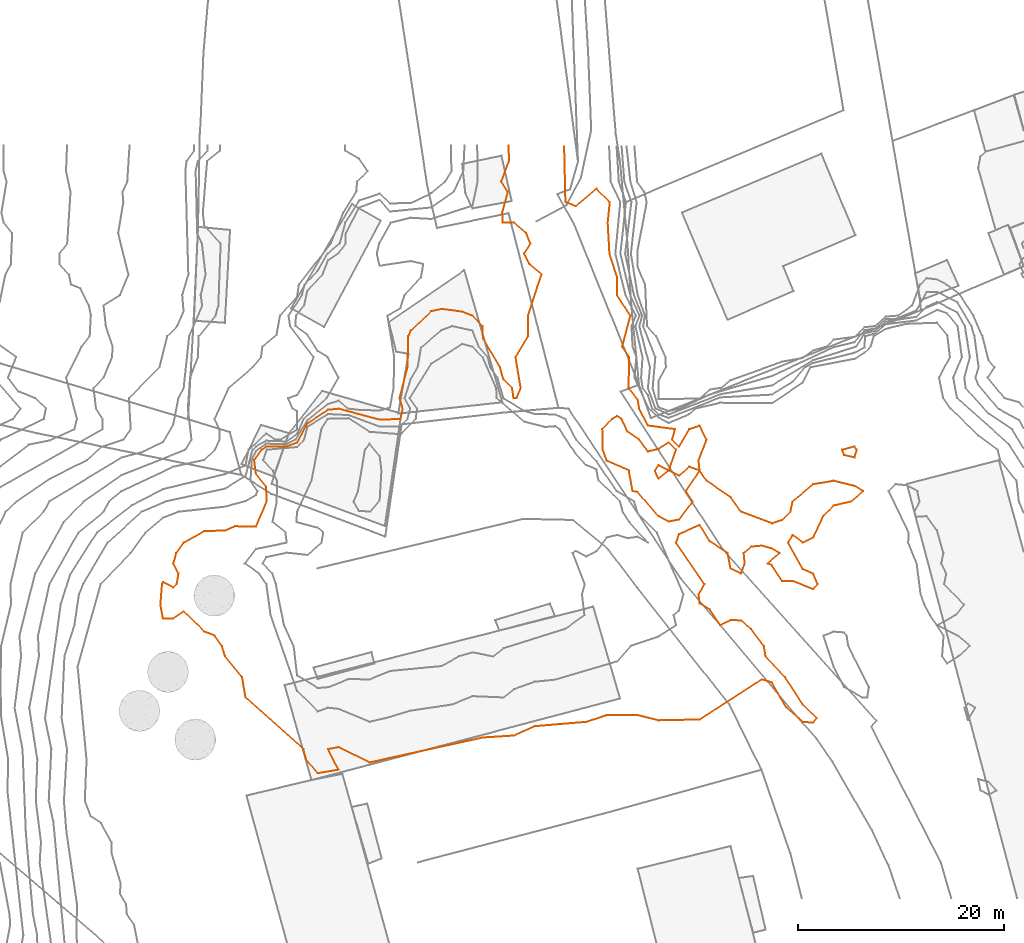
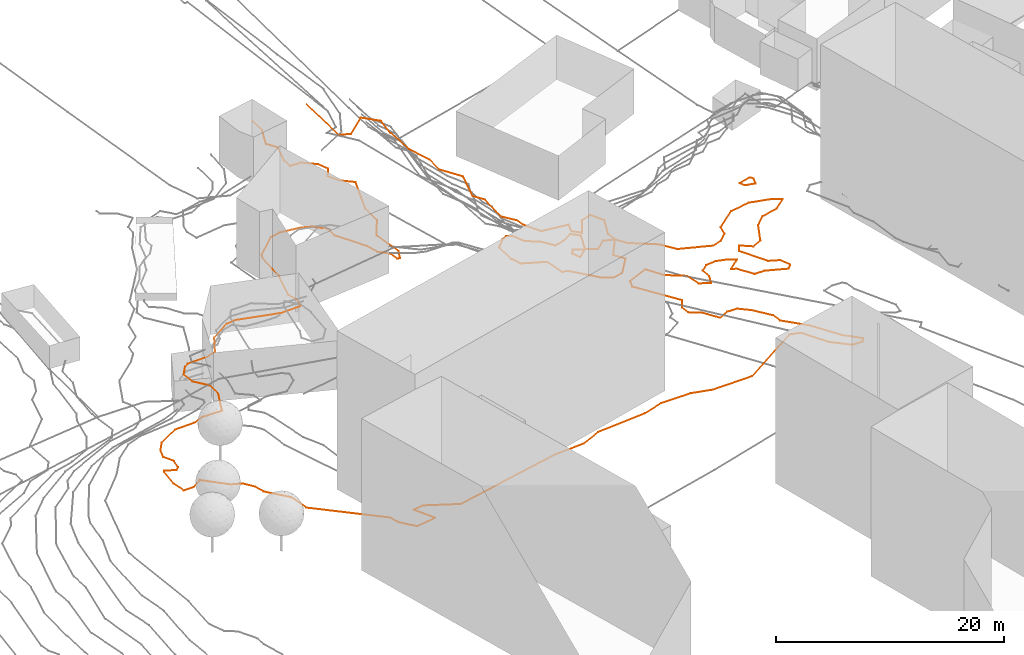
# Not in any storey, part 385 of 419: 3 proxies.
"""IFC2X3 model written with IfcOpenShell, lengths in metres."""

import ifcopenshell
import ifcopenshell.guid

model = None  # the IFC model being written
_history = None  # IfcOwnerHistory: only IFC2X3 demands one
_inside = {}  # id of a spatial element -> (the spatial element, [elements in it])
_under = {}  # id of a project, library or spatial element -> (it, [spatial elements below it])
_declared = {}  # id of a project -> (the project, [libraries it declares])
_typed = {}  # id of a type object -> (the type object, [elements of that type])
_made_of = {}  # id of a material, layer set ... -> (it, [elements and type objects made of it])


def new_model(schema):
    """Start an empty IFC model of exactly this schema.

    Asked for "IFC4X3", IfcOpenShell would pick the latest addendum, in which some entities
    have other attributes; the version numbers below select the first issue.
    IFC2X3 requires an IfcOwnerHistory on every rooted entity: one is made here for all.
    """
    global model, _history
    if schema == "IFC4X3":
        model = ifcopenshell.file(schema_version=(4, 3, 0, 0))
    else:
        model = ifcopenshell.file(schema=schema)
    _inside.clear()
    _under.clear()
    _declared.clear()
    _typed.clear()
    _made_of.clear()
    _history = None
    if model.schema == "IFC2X3":
        org = make("IfcOrganization", Name="unknown")
        user = make(
            "IfcPersonAndOrganization",
            ThePerson=make("IfcPerson", FamilyName="unknown"),
            TheOrganization=org,
        )
        app = make(
            "IfcApplication",
            ApplicationDeveloper=org,
            Version="unknown",
            ApplicationFullName="unknown",
            ApplicationIdentifier="unknown",
        )
        _history = make(
            "IfcOwnerHistory",
            OwningUser=user,
            OwningApplication=app,
            ChangeAction="ADDED",
            CreationDate=0,
        )
    return model


def make(cls, **values):
    """One entity of the class cls with the attributes given. An attribute that is None is left unset."""
    return model.create_entity(
        cls, **{name: value for name, value in values.items() if value is not None}
    )


def entity(cls, *values):
    """Any entity or typed value of the class cls, its attributes in the order of the schema. None: left unset."""
    e = model.create_entity(cls)
    for i, value in enumerate(values):
        if value is not None:
            e[i] = value
    return e


def rooted(cls, **values):
    """An entity with a GlobalId (a new one), such as an element, a storey or a relation."""
    return make(cls, GlobalId=ifcopenshell.guid.new(), OwnerHistory=_history, **values)


def si_unit(unit_type, name, prefix=None):
    """IfcSIUnit, for example si_unit("LENGTHUNIT", "METRE", prefix="MILLI")."""
    return make("IfcSIUnit", UnitType=unit_type, Prefix=prefix, Name=name)


def assignment(units):
    """IfcUnitAssignment: the units of a project."""
    return None if units is None else make("IfcUnitAssignment", Units=units)


def point(xyz):
    """IfcCartesianPoint."""
    return None if xyz is None else make("IfcCartesianPoint", Coordinates=xyz)


def direction(xyz):
    """IfcDirection."""
    return None if xyz is None else make("IfcDirection", DirectionRatios=xyz)


def frame(location, z_axis=None, x_axis=None):
    """IfcAxis2Placement3D, a coordinate frame: its origin and axes. An axis left out is left unset."""
    return make(
        "IfcAxis2Placement3D",
        Location=point(location),
        Axis=direction(z_axis),
        RefDirection=direction(x_axis),
    )


def origin_with_axes():
    """The frame at (0, 0, 0) with the z axis (0, 0, 1) and the x axis (1, 0, 0) written out."""
    return frame((0.0, 0.0, 0.0), z_axis=(0.0, 0.0, 1.0), x_axis=(1.0, 0.0, 0.0))


def place(relative_to, where):
    """IfcLocalPlacement: puts the frame where relative to a parent placement (None: the world)."""
    return make(
        "IfcLocalPlacement", PlacementRelTo=relative_to, RelativePlacement=where
    )


def context(
    kind, dimensions, precision=None, world=None, true_north=None, identifier=None
):
    """IfcGeometricRepresentationContext, for example the 3D "Model" context."""
    return make(
        "IfcGeometricRepresentationContext",
        ContextIdentifier=identifier,
        ContextType=kind,
        CoordinateSpaceDimension=dimensions,
        Precision=precision,
        WorldCoordinateSystem=world,
        TrueNorth=true_north,
    )


def subcontext(parent, identifier, kind, view, scale=None):
    """IfcGeometricRepresentationSubContext, for example "Body" below "Model"."""
    return make(
        "IfcGeometricRepresentationSubContext",
        ContextIdentifier=identifier,
        ContextType=kind,
        ParentContext=parent,
        TargetScale=scale,
        TargetView=view,
    )


def project(units=None, contexts=None):
    """IfcProject with its units and contexts."""
    return rooted(
        "IfcProject",
        Name="project",
        RepresentationContexts=contexts,
        UnitsInContext=assignment(units),
    )


def shape(context_of_items, identifier, shape_type, items):
    """IfcShapeRepresentation: the items that make up one representation, for example the "Body"."""
    return make(
        "IfcShapeRepresentation",
        ContextOfItems=context_of_items,
        RepresentationIdentifier=identifier,
        RepresentationType=shape_type,
        Items=items,
    )


def made_of(thing, what):
    """Note that an element or type object is made of a material, layer set ...; save() writes the relation."""
    if what is not None:
        _made_of.setdefault(what.id(), (what, []))[1].append(thing)
    return thing


def element(
    cls,
    number,
    at=None,
    inside=None,
    cuts=None,
    type_object=None,
    material=None,
    context=None,
    identifier="Body",
    shape_type=None,
    held_by="IfcProductDefinitionShape",
    body=None,
    shapes=None,
    **own,
):
    """One element of the class cls, such as IfcWall. Its Tag is "e" and its number.

    at: its placement. inside: the storey or other place that contains it. cuts: it is an
    opening in that element (IfcRelVoidsElement). A single representation is given by context,
    identifier, shape_type and body (its items); several are given by shapes. held_by: the class
    of the entity that holds the representations. save() writes the other relations.
    """
    e = rooted(cls, Tag="e%d" % number, ObjectPlacement=at, **own)
    if body is not None:
        shapes = [shape(context, identifier, shape_type, body)]
    if shapes is not None:
        e.Representation = make(held_by, Representations=shapes)
    if inside is not None:
        _inside.setdefault(inside.id(), (inside, []))[1].append(e)
    if cuts is not None:
        rooted(
            "IfcRelVoidsElement", RelatingBuildingElement=cuts, RelatedOpeningElement=e
        )
    if type_object is not None:
        _typed.setdefault(type_object.id(), (type_object, []))[1].append(e)
    return made_of(e, material)


def aggregate(whole, parts):
    """IfcRelAggregates: a whole, such as a stair, and the parts it consists of."""
    return rooted("IfcRelAggregates", RelatingObject=whole, RelatedObjects=parts)


def save(model, path):
    """Write the relations noted so far, then the file.

    IfcRelAggregates (storeys below a building ...), IfcRelContainedInSpatialStructure (elements
    in a storey), IfcRelDefinesByType, IfcRelAssociatesMaterial and IfcRelDeclares: one each for
    every whole, place, type object, material and project.
    """
    for whole, parts in _under.values():
        aggregate(whole, parts)
    for where, things in _inside.values():
        rooted(
            "IfcRelContainedInSpatialStructure",
            RelatedElements=things,
            RelatingStructure=where,
        )
    for kind, things in _typed.values():
        rooted("IfcRelDefinesByType", RelatedObjects=things, RelatingType=kind)
    for what, things in _made_of.values():
        rooted("IfcRelAssociatesMaterial", RelatedObjects=things, RelatingMaterial=what)
    for by, libraries in _declared.values():
        rooted("IfcRelDeclares", RelatingContext=by, RelatedDefinitions=libraries)
    model.write(path)


model = new_model("IFC2X3")

# Units and contexts
model_context = context("Model", 3, precision=1e-05, world=origin_with_axes())
body_context = subcontext(model_context, "Body", "Model", "MODEL_VIEW")
ifc_project = project(units=[si_unit("AREAUNIT", "SQUARE_METRE"), si_unit("LENGTHUNIT", "METRE")], contexts=[model_context])

# Proxies
proxy_1_placement = place(None, frame((875.8919899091, 1002.8976909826, 99.0), z_axis=(0.0, 0.0, 1.0), x_axis=(1.0, 0.0, 0.0)))
element("IfcBuildingElementProxy", 1, at=proxy_1_placement, Name="Contour 99.0 m", ObjectType="NOTDEFINED", context=body_context, shape_type="GeometricCurveSet", body=[
    entity("IfcGeometricCurveSet", [entity("IfcPolyline", [entity("IfcCartesianPoint", [1.430795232, 0.0, 0.0]), entity("IfcCartesianPoint", [1.2000305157, -0.7499523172, 0.0]), entity("IfcCartesianPoint", [0.2000305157, -0.5000499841, 0.0]), entity("IfcCartesianPoint", [0.0, 0.0, 0.0]), entity("IfcCartesianPoint", [1.2000305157, 0.333333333, 0.0]), entity("IfcCartesianPoint", [1.430795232, 0.0, 0.0])])]),
])
proxy_2_placement = place(None, frame((852.6634645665, 1004.8976909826, 99.0), z_axis=(0.0, 0.0, 1.0), x_axis=(1.0, 0.0, 0.0)))
element("IfcBuildingElementProxy", 2, at=proxy_2_placement, Name="Contour 99.0 m", ObjectType="NOTDEFINED", context=body_context, shape_type="GeometricCurveSet", body=[
    entity("IfcGeometricCurveSet", [entity("IfcPolyline", [entity("IfcCartesianPoint", [7.4285558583, -8.75, 0.0]), entity("IfcCartesianPoint", [8.7618468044, -7.0, 0.0]), entity("IfcCartesianPoint", [8.0952649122, -6.0, 0.0]), entity("IfcCartesianPoint", [9.4285358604, -4.0, 0.0]), entity("IfcCartesianPoint", [8.4285558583, -3.642833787, 0.0]), entity("IfcCartesianPoint", [7.4285558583, -4.5000071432, 0.0]), entity("IfcCartesianPoint", [6.4285558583, -4.000033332, 0.0]), entity("IfcCartesianPoint", [5.4285558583, -4.7999694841, 0.0]), entity("IfcCartesianPoint", [5.0952225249, -4.0, 0.0]), entity("IfcCartesianPoint", [5.4285558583, -3.4999875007, 0.0]), entity("IfcCartesianPoint", [6.4285558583, -3.9999750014, 0.0]), entity("IfcCartesianPoint", [7.1428882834, -2.0, 0.0]), entity("IfcCartesianPoint", [6.4285558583, -1.285667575, 0.0]), entity("IfcCartesianPoint", [5.4285558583, -1.9166507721, 0.0]), entity("IfcCartesianPoint", [4.4285558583, -2.1538235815, 0.0]), entity("IfcCartesianPoint", [3.5823794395, -1.0, 0.0]), entity("IfcCartesianPoint", [2.4285558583, -0.2499761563, 0.0]), entity("IfcCartesianPoint", [1.8831265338, 1.0, 0.0]), entity("IfcCartesianPoint", [1.4285558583, 1.2500095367, 0.0]), entity("IfcCartesianPoint", [0.9285658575, 1.0, 0.0]), entity("IfcCartesianPoint", [0.0, 0.0, 0.0]), entity("IfcCartesianPoint", [0.0439314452, -2.0, 0.0]), entity("IfcCartesianPoint", [0.4285558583, -3.0499923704, 0.0]), entity("IfcCartesianPoint", [2.5714441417, -4.0, 0.0]), entity("IfcCartesianPoint", [2.9285658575, -6.0, 0.0]), entity("IfcCartesianPoint", [3.4285558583, -6.0847503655, 0.0]), entity("IfcCartesianPoint", [5.4285558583, -8.410258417, 0.0]), entity("IfcCartesianPoint", [6.4285558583, -8.9545359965, 0.0]), entity("IfcCartesianPoint", [7.4285558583, -8.75, 0.0])])]),
])
proxy_3_placement = place(None, frame((809.8419727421, 987.8976909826, 99.0), z_axis=(0.0, 0.0, 1.0), x_axis=(1.0, 0.0, 0.0)))
element("IfcBuildingElementProxy", 3, at=proxy_3_placement, Name="Contour 99.0 m", ObjectType="NOTDEFINED", context=body_context, shape_type="GeometricCurveSet", body=[
    entity("IfcGeometricCurveSet", [entity("IfcPolyline", [entity("IfcCartesianPoint", [39.1250655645, 44.5, 0.0]), entity("IfcCartesianPoint", [39.2500476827, 39.0000199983, 0.0]), entity("IfcCartesianPoint", [40.2500476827, 38.5999847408, 0.0]), entity("IfcCartesianPoint", [42.2500476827, 40.3225782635, 0.0]), entity("IfcCartesianPoint", [43.5451298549, 39.0, 0.0]), entity("IfcCartesianPoint", [43.3452875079, 37.0, 0.0]), entity("IfcCartesianPoint", [43.5170935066, 34.0, 0.0]), entity("IfcCartesianPoint", [44.2500476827, 31.7333299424, 0.0]), entity("IfcCartesianPoint", [44.250048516, 30.0, 0.0]), entity("IfcCartesianPoint", [45.5380910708, 28.0, 0.0]), entity("IfcCartesianPoint", [44.7454595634, 25.0, 0.0]), entity("IfcCartesianPoint", [45.4261042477, 24.0, 0.0]), entity("IfcCartesianPoint", [45.3676939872, 21.0, 0.0]), entity("IfcCartesianPoint", [46.2500476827, 19.8666836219, 0.0]), entity("IfcCartesianPoint", [46.3929024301, 19.0, 0.0]), entity("IfcCartesianPoint", [47.2500476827, 17.3478289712, 0.0]), entity("IfcCartesianPoint", [49.8654232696, 17.0, 0.0]), entity("IfcCartesianPoint", [49.5833386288, 16.0, 0.0]), entity("IfcCartesianPoint", [50.2500476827, 15.3332909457, 0.0]), entity("IfcCartesianPoint", [51.2500276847, 17.0, 0.0]), entity("IfcCartesianPoint", [52.2500476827, 17.3332909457, 0.0]), entity("IfcCartesianPoint", [52.9167143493, 16.0, 0.0]), entity("IfcCartesianPoint", [52.1500247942, 14.0, 0.0]), entity("IfcCartesianPoint", [52.2500476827, 13.0000999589, 0.0]), entity("IfcCartesianPoint", [52.9166295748, 12.0, 0.0]), entity("IfcCartesianPoint", [55.2500476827, 10.39996948, 0.0]), entity("IfcCartesianPoint", [56.2500476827, 9.0000124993, 0.0]), entity("IfcCartesianPoint", [59.2500476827, 7.8749761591, 0.0]), entity("IfcCartesianPoint", [60.2500476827, 8.2000305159, 0.0]), entity("IfcCartesianPoint", [61.050017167, 9.0, 0.0]), entity("IfcCartesianPoint", [61.2500476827, 10.0000199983, 0.0]), entity("IfcCartesianPoint", [63.2500476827, 11.6666497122, 0.0]), entity("IfcCartesianPoint", [65.2500476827, 12.0000166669, 0.0]), entity("IfcCartesianPoint", [67.2500476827, 11.5000083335, 0.0]), entity("IfcCartesianPoint", [68.1071593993, 11.0, 0.0]), entity("IfcCartesianPoint", [66.9167567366, 10.0, 0.0]), entity("IfcCartesianPoint", [65.2500476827, 9.60003052, 0.0]), entity("IfcCartesianPoint", [64.2500476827, 8.6250238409, 0.0]), entity("IfcCartesianPoint", [63.2500476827, 6.4999749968, 0.0]), entity("IfcCartesianPoint", [62.2500476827, 5.9999750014, 0.0]), entity("IfcCartesianPoint", [61.2500476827, 6.7499523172, 0.0]), entity("IfcCartesianPoint", [60.8214918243, 6.0, 0.0]), entity("IfcCartesianPoint", [62.2500476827, 3.4444350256, 0.0]), entity("IfcCartesianPoint", [63.2500810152, 3.0, 0.0]), entity("IfcCartesianPoint", [63.678603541, 2.0, 0.0]), entity("IfcCartesianPoint", [63.2500476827, 1.4999833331, 0.0]), entity("IfcCartesianPoint", [61.2500476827, 2.285667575, 0.0]), entity("IfcCartesianPoint", [60.2500476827, 2.2999923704, 0.0]), entity("IfcCartesianPoint", [59.2500476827, 3.7857220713, 0.0]), entity("IfcCartesianPoint", [58.8214918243, 4.0, 0.0]), entity("IfcCartesianPoint", [60.0, 5.0, 0.0]), entity("IfcCartesianPoint", [59.2500476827, 5.4285558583, 0.0]), entity("IfcCartesianPoint", [58.2500476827, 5.714332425, 0.0]), entity("IfcCartesianPoint", [57.2500476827, 5.6153755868, 0.0]), entity("IfcCartesianPoint", [56.5227623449, 5.0, 0.0]), entity("IfcCartesianPoint", [56.6250238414, 4.0, 0.0]), entity("IfcCartesianPoint", [56.2500476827, 2.9999750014, 0.0]), entity("IfcCartesianPoint", [55.2500476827, 3.4999500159, 0.0]), entity("IfcCartesianPoint", [54.9643801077, 5.0, 0.0]), entity("IfcCartesianPoint", [53.2500476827, 6.1250238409, 0.0]), entity("IfcCartesianPoint", [52.2500476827, 7.7272853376, 0.0]), entity("IfcCartesianPoint", [50.2500476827, 6.8333545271, 0.0]), entity("IfcCartesianPoint", [49.964336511, 6.0, 0.0]), entity("IfcCartesianPoint", [52.7083876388, 2.0, 0.0]), entity("IfcCartesianPoint", [52.1528260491, 1.0, 0.0]), entity("IfcCartesianPoint", [52.2500476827, 0.1250238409, 0.0]), entity("IfcCartesianPoint", [53.2500476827, -0.4999500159, 0.0]), entity("IfcCartesianPoint", [54.2500476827, -1.9999750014, 0.0]), entity("IfcCartesianPoint", [55.2500476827, -1.4999875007, 0.0]), entity("IfcCartesianPoint", [56.2500476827, -1.5384705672, 0.0]), entity("IfcCartesianPoint", [57.2500476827, -2.3846244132, 0.0]), entity("IfcCartesianPoint", [58.4808123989, -4.0, 0.0]), entity("IfcCartesianPoint", [58.6250238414, -5.0, 0.0]), entity("IfcCartesianPoint", [60.5227623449, -7.0, 0.0]), entity("IfcCartesianPoint", [62.2500476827, -9.7000076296, 0.0]), entity("IfcCartesianPoint", [63.583381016, -11.0, 0.0]), entity("IfcCartesianPoint", [63.2500476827, -11.4285558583, 0.0]), entity("IfcCartesianPoint", [62.2500476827, -11.3846244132, 0.0]), entity("IfcCartesianPoint", [60.678603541, -10.0, 0.0]), entity("IfcCartesianPoint", [59.2500476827, -7.5454293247, 0.0]), entity("IfcCartesianPoint", [58.2500476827, -7.25, 0.0]), entity("IfcCartesianPoint", [52.2500476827, -11.1333163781, 0.0]), entity("IfcCartesianPoint", [48.2500476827, -11.2142779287, 0.0]), entity("IfcCartesianPoint", [46.2500476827, -10.714332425, 0.0]), entity("IfcCartesianPoint", [43.2500476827, -10.7142779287, 0.0]), entity("IfcCartesianPoint", [41.2500476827, -11.3636426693, 0.0]), entity("IfcCartesianPoint", [36.2500476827, -11.7825985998, 0.0]), entity("IfcCartesianPoint", [34.2500476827, -12.6896606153, 0.0]), entity("IfcCartesianPoint", [31.2500476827, -12.875003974, 0.0]), entity("IfcCartesianPoint", [20.2500476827, -15.2962983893, 0.0]), entity("IfcCartesianPoint", [17.2500476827, -13.8148064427, 0.0]), entity("IfcCartesianPoint", [16.2500676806, -14.0, 0.0]), entity("IfcCartesianPoint", [17.2500726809, -16.0, 0.0]), entity("IfcCartesianPoint", [15.2500476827, -16.333333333, 0.0]), entity("IfcCartesianPoint", [14.1389177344, -15.0, 0.0]), entity("IfcCartesianPoint", [13.850078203, -14.0, 0.0]), entity("IfcCartesianPoint", [8.2500333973, -9.0, 0.0]), entity("IfcCartesianPoint", [7.9167567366, -7.0, 0.0]), entity("IfcCartesianPoint", [6.2500476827, -5.0000999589, 0.0]), entity("IfcCartesianPoint", [5.9643801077, -4.0, 0.0]), entity("IfcCartesianPoint", [5.2500476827, -3.0000199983, 0.0]), entity("IfcCartesianPoint", [4.2500476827, -2.60003052, 0.0]), entity("IfcCartesianPoint", [2.2500476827, -0.6665818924, 0.0]), entity("IfcCartesianPoint", [1.2500476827, -1.3332909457, 0.0]), entity("IfcCartesianPoint", [0.2500476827, -1.3334181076, 0.0]), entity("IfcCartesianPoint", [0.0, 0.0, 0.0]), entity("IfcCartesianPoint", [0.159119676, 2.0, 0.0]), entity("IfcCartesianPoint", [0.2500476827, 2.1666878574, 0.0]), entity("IfcCartesianPoint", [1.2500476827, 1.6665818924, 0.0]), entity("IfcCartesianPoint", [1.5834657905, 2.0, 0.0]), entity("IfcCartesianPoint", [1.7500226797, 3.0, 0.0]), entity("IfcCartesianPoint", [1.2500310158, 4.0, 0.0]), entity("IfcCartesianPoint", [1.5357152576, 5.0, 0.0]), entity("IfcCartesianPoint", [2.2500365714, 6.0, 0.0]), entity("IfcCartesianPoint", [4.2500476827, 7.1142888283, 0.0]), entity("IfcCartesianPoint", [6.2500476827, 7.1818213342, 0.0]), entity("IfcCartesianPoint", [7.2500476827, 7.5925967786, 0.0]), entity("IfcCartesianPoint", [9.2500476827, 7.5454524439, 0.0]), entity("IfcCartesianPoint", [10.2892641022, 10.0, 0.0]), entity("IfcCartesianPoint", [10.2500476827, 11.4583399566, 0.0]), entity("IfcCartesianPoint", [9.2500476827, 12.7166689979, 0.0]), entity("IfcCartesianPoint", [9.088527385, 14.0, 0.0]), entity("IfcCartesianPoint", [9.8000480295, 15.0, 0.0]), entity("IfcCartesianPoint", [10.2500476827, 15.2903222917, 0.0]), entity("IfcCartesianPoint", [12.2500476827, 15.3341172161, 0.0]), entity("IfcCartesianPoint", [13.2500476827, 15.7030567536, 0.0]), entity("IfcCartesianPoint", [14.2500476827, 17.5691320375, 0.0]), entity("IfcCartesianPoint", [16.2500476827, 18.8818568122, 0.0]), entity("IfcCartesianPoint", [17.2500476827, 18.9789016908, 0.0]), entity("IfcCartesianPoint", [21.2500476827, 17.9183655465, 0.0]), entity("IfcCartesianPoint", [23.2500476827, 17.9859178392, 0.0]), entity("IfcCartesianPoint", [23.4857630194, 19.0, 0.0]), entity("IfcCartesianPoint", [23.1731255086, 20.0, 0.0]), entity("IfcCartesianPoint", [23.9431177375, 23.0, 0.0]), entity("IfcCartesianPoint", [24.0177223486, 26.0, 0.0]), entity("IfcCartesianPoint", [24.2500476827, 26.5348911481, 0.0]), entity("IfcCartesianPoint", [26.2500476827, 28.4324391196, 0.0]), entity("IfcCartesianPoint", [27.2500476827, 28.6521743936, 0.0]), entity("IfcCartesianPoint", [29.2500476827, 28.3846198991, 0.0]), entity("IfcCartesianPoint", [30.2500476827, 27.9857113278, 0.0]), entity("IfcCartesianPoint", [31.2218833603, 27.0, 0.0]), entity("IfcCartesianPoint", [31.2500476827, 25.8461598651, 0.0]), entity("IfcCartesianPoint", [32.9045906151, 23.0, 0.0]), entity("IfcCartesianPoint", [33.2500476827, 21.7882345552, 0.0]), entity("IfcCartesianPoint", [34.0772084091, 21.0, 0.0]), entity("IfcCartesianPoint", [34.219121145, 20.0, 0.0]), entity("IfcCartesianPoint", [34.5000476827, 20.0, 0.0]), entity("IfcCartesianPoint", [34.9167143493, 21.0, 0.0]), entity("IfcCartesianPoint", [34.4167072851, 24.0, 0.0]), entity("IfcCartesianPoint", [35.6250417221, 26.0, 0.0]), entity("IfcCartesianPoint", [35.6136903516, 28.0, 0.0]), entity("IfcCartesianPoint", [36.9166295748, 32.0, 0.0]), entity("IfcCartesianPoint", [35.7500310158, 33.0, 0.0]), entity("IfcCartesianPoint", [35.2500476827, 33.999966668, 0.0]), entity("IfcCartesianPoint", [35.8500324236, 35.0, 0.0]), entity("IfcCartesianPoint", [35.4500781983, 36.0, 0.0]), entity("IfcCartesianPoint", [34.2500476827, 36.9999833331, 0.0]), entity("IfcCartesianPoint", [33.173111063, 37.0, 0.0]), entity("IfcCartesianPoint", [33.1250447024, 38.0, 0.0]), entity("IfcCartesianPoint", [33.6731234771, 40.0, 0.0]), entity("IfcCartesianPoint", [33.0312984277, 41.0, 0.0]), entity("IfcCartesianPoint", [33.7763698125, 43.0, 0.0]), entity("IfcCartesianPoint", [33.7500435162, 44.5, 0.0])])]),
])

save(model, "model.ifc")
